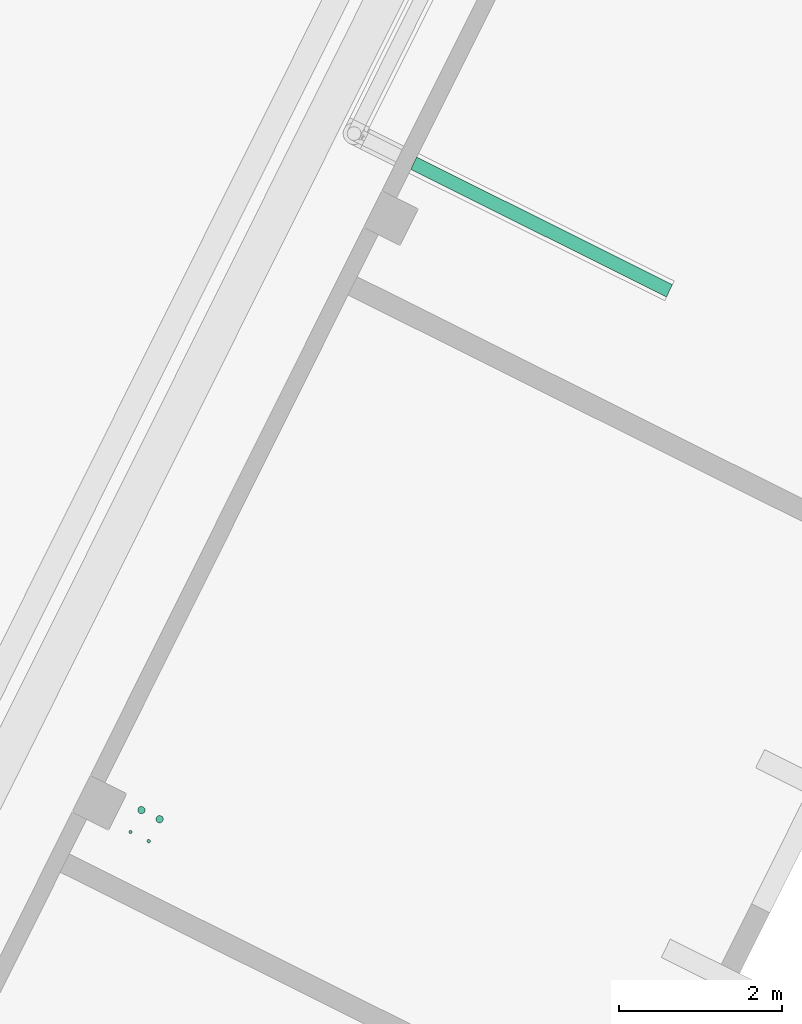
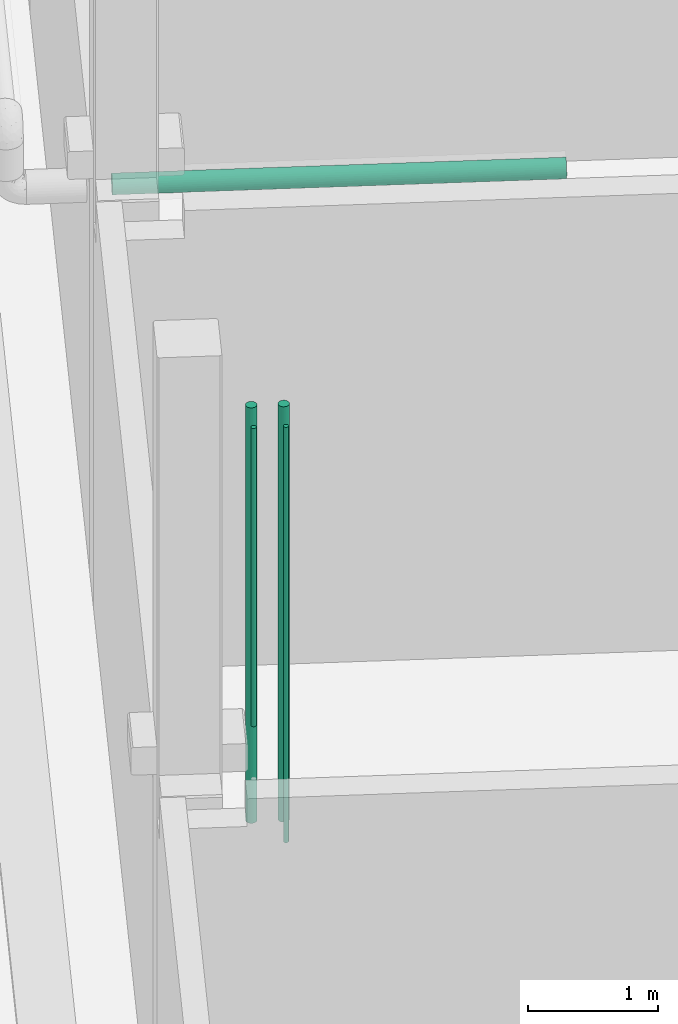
# One storey, part 60 of 91: 5 flow segments.
"""IFC2X3 building model written with IfcOpenShell, lengths in metres."""

import ifcopenshell
import ifcopenshell.guid

model = None  # the IFC model being written
_history = None  # IfcOwnerHistory: only IFC2X3 demands one
_inside = {}  # id of a spatial element -> (the spatial element, [elements in it])
_under = {}  # id of a project, library or spatial element -> (it, [spatial elements below it])
_declared = {}  # id of a project -> (the project, [libraries it declares])
_typed = {}  # id of a type object -> (the type object, [elements of that type])
_made_of = {}  # id of a material, layer set ... -> (it, [elements and type objects made of it])


def new_model(schema):
    """Start an empty IFC model of exactly this schema.

    Asked for "IFC4X3", IfcOpenShell would pick the latest addendum, in which some entities
    have other attributes; the version numbers below select the first issue.
    IFC2X3 requires an IfcOwnerHistory on every rooted entity: one is made here for all.
    """
    global model, _history
    if schema == "IFC4X3":
        model = ifcopenshell.file(schema_version=(4, 3, 0, 0))
    else:
        model = ifcopenshell.file(schema=schema)
    _inside.clear()
    _under.clear()
    _declared.clear()
    _typed.clear()
    _made_of.clear()
    _history = None
    if model.schema == "IFC2X3":
        org = make("IfcOrganization", Name="unknown")
        user = make(
            "IfcPersonAndOrganization",
            ThePerson=make("IfcPerson", FamilyName="unknown"),
            TheOrganization=org,
        )
        app = make(
            "IfcApplication",
            ApplicationDeveloper=org,
            Version="unknown",
            ApplicationFullName="unknown",
            ApplicationIdentifier="unknown",
        )
        _history = make(
            "IfcOwnerHistory",
            OwningUser=user,
            OwningApplication=app,
            ChangeAction="ADDED",
            CreationDate=0,
        )
    return model


def make(cls, **values):
    """One entity of the class cls with the attributes given. An attribute that is None is left unset."""
    return model.create_entity(
        cls, **{name: value for name, value in values.items() if value is not None}
    )


def entity(cls, *values):
    """Any entity or typed value of the class cls, its attributes in the order of the schema. None: left unset."""
    e = model.create_entity(cls)
    for i, value in enumerate(values):
        if value is not None:
            e[i] = value
    return e


def rooted(cls, **values):
    """An entity with a GlobalId (a new one), such as an element, a storey or a relation."""
    return make(cls, GlobalId=ifcopenshell.guid.new(), OwnerHistory=_history, **values)


def si_unit(unit_type, name, prefix=None):
    """IfcSIUnit, for example si_unit("LENGTHUNIT", "METRE", prefix="MILLI")."""
    return make("IfcSIUnit", UnitType=unit_type, Prefix=prefix, Name=name)


def converted_unit(unit_type, name, factor, base, dimensions=None, offset=None):
    """IfcConversionBasedUnit, such as the inch: factor (a typed value) times the base unit."""
    return make(
        "IfcConversionBasedUnit"
        if offset is None
        else "IfcConversionBasedUnitWithOffset",
        ConversionOffset=offset,
        Dimensions=None
        if dimensions is None
        else entity("IfcDimensionalExponents", *dimensions),
        UnitType=unit_type,
        Name=name,
        ConversionFactor=make(
            "IfcMeasureWithUnit", ValueComponent=factor, UnitComponent=base
        ),
    )


def derived_unit(unit_type, elements):
    """IfcDerivedUnit: a product of units, each with its exponent."""
    return make(
        "IfcDerivedUnit",
        Elements=[
            make("IfcDerivedUnitElement", Unit=unit, Exponent=power)
            for unit, power in elements
        ],
        UnitType=unit_type,
    )


def assignment(units):
    """IfcUnitAssignment: the units of a project."""
    return None if units is None else make("IfcUnitAssignment", Units=units)


def point(xyz):
    """IfcCartesianPoint."""
    return None if xyz is None else make("IfcCartesianPoint", Coordinates=xyz)


def direction(xyz):
    """IfcDirection."""
    return None if xyz is None else make("IfcDirection", DirectionRatios=xyz)


def frame(location, z_axis=None, x_axis=None):
    """IfcAxis2Placement3D, a coordinate frame: its origin and axes. An axis left out is left unset."""
    return make(
        "IfcAxis2Placement3D",
        Location=point(location),
        Axis=direction(z_axis),
        RefDirection=direction(x_axis),
    )


def frame_2d(location, x_axis=None):
    """IfcAxis2Placement2D, a coordinate frame in the plane: its origin and x axis."""
    return make(
        "IfcAxis2Placement2D", Location=point(location), RefDirection=direction(x_axis)
    )


def origin():
    """The frame at (0, 0, 0) with its axes left unset."""
    return frame((0.0, 0.0, 0.0))


def origin_2d_with_axis():
    """The frame at (0, 0) in the plane with the x axis (1, 0) written out."""
    return frame_2d((0.0, 0.0), x_axis=(1.0, 0.0))


def place(relative_to, where):
    """IfcLocalPlacement: puts the frame where relative to a parent placement (None: the world)."""
    return make(
        "IfcLocalPlacement", PlacementRelTo=relative_to, RelativePlacement=where
    )


def context(
    kind, dimensions, precision=None, world=None, true_north=None, identifier=None
):
    """IfcGeometricRepresentationContext, for example the 3D "Model" context."""
    return make(
        "IfcGeometricRepresentationContext",
        ContextIdentifier=identifier,
        ContextType=kind,
        CoordinateSpaceDimension=dimensions,
        Precision=precision,
        WorldCoordinateSystem=world,
        TrueNorth=true_north,
    )


def subcontext(parent, identifier, kind, view, scale=None):
    """IfcGeometricRepresentationSubContext, for example "Body" below "Model"."""
    return make(
        "IfcGeometricRepresentationSubContext",
        ContextIdentifier=identifier,
        ContextType=kind,
        ParentContext=parent,
        TargetScale=scale,
        TargetView=view,
    )


def project(units=None, contexts=None):
    """IfcProject with its units and contexts."""
    return rooted(
        "IfcProject",
        Name="project",
        RepresentationContexts=contexts,
        UnitsInContext=assignment(units),
    )


def spatial(cls, under=None, at=None, **own):
    """A site, building, storey or space (cls), placed at a placement, below another one or the project."""
    s = rooted(cls, ObjectPlacement=at, **own)
    if under is not None:
        _under.setdefault(under.id(), (under, []))[1].append(s)
    return s


def profile(cls, at=None, kind="AREA", **sizes):
    """A parametric profile (cls). Its sizes go by their IFC names, for example OverallWidth=200.0."""
    return make(cls, ProfileType=kind, Position=at, **sizes)


def circle(**sizes):
    """IfcCircleProfileDef."""
    return profile("IfcCircleProfileDef", **sizes)


def extrude(swept, where, along, depth):
    """IfcExtrudedAreaSolid: the profile swept, set in the frame where, extruded along a direction by depth."""
    return make(
        "IfcExtrudedAreaSolid",
        SweptArea=swept,
        Position=where,
        ExtrudedDirection=direction(along),
        Depth=depth,
    )


def shape(context_of_items, identifier, shape_type, items):
    """IfcShapeRepresentation: the items that make up one representation, for example the "Body"."""
    return make(
        "IfcShapeRepresentation",
        ContextOfItems=context_of_items,
        RepresentationIdentifier=identifier,
        RepresentationType=shape_type,
        Items=items,
    )


def made_of(thing, what):
    """Note that an element or type object is made of a material, layer set ...; save() writes the relation."""
    if what is not None:
        _made_of.setdefault(what.id(), (what, []))[1].append(thing)
    return thing


def type_object(cls, material=None, **own):
    """A type object (cls), such as IfcWallType, which elements share."""
    return made_of(rooted(cls, **own), material)


def element(
    cls,
    number,
    at=None,
    inside=None,
    cuts=None,
    type_object=None,
    material=None,
    context=None,
    identifier="Body",
    shape_type=None,
    held_by="IfcProductDefinitionShape",
    body=None,
    shapes=None,
    **own,
):
    """One element of the class cls, such as IfcWall. Its Tag is "e" and its number.

    at: its placement. inside: the storey or other place that contains it. cuts: it is an
    opening in that element (IfcRelVoidsElement). A single representation is given by context,
    identifier, shape_type and body (its items); several are given by shapes. held_by: the class
    of the entity that holds the representations. save() writes the other relations.
    """
    e = rooted(cls, Tag="e%d" % number, ObjectPlacement=at, **own)
    if body is not None:
        shapes = [shape(context, identifier, shape_type, body)]
    if shapes is not None:
        e.Representation = make(held_by, Representations=shapes)
    if inside is not None:
        _inside.setdefault(inside.id(), (inside, []))[1].append(e)
    if cuts is not None:
        rooted(
            "IfcRelVoidsElement", RelatingBuildingElement=cuts, RelatedOpeningElement=e
        )
    if type_object is not None:
        _typed.setdefault(type_object.id(), (type_object, []))[1].append(e)
    return made_of(e, material)


def aggregate(whole, parts):
    """IfcRelAggregates: a whole, such as a stair, and the parts it consists of."""
    return rooted("IfcRelAggregates", RelatingObject=whole, RelatedObjects=parts)


def save(model, path):
    """Write the relations noted so far, then the file.

    IfcRelAggregates (storeys below a building ...), IfcRelContainedInSpatialStructure (elements
    in a storey), IfcRelDefinesByType, IfcRelAssociatesMaterial and IfcRelDeclares: one each for
    every whole, place, type object, material and project.
    """
    for whole, parts in _under.values():
        aggregate(whole, parts)
    for where, things in _inside.values():
        rooted(
            "IfcRelContainedInSpatialStructure",
            RelatedElements=things,
            RelatingStructure=where,
        )
    for kind, things in _typed.values():
        rooted("IfcRelDefinesByType", RelatedObjects=things, RelatingType=kind)
    for what, things in _made_of.values():
        rooted("IfcRelAssociatesMaterial", RelatedObjects=things, RelatingMaterial=what)
    for by, libraries in _declared.values():
        rooted("IfcRelDeclares", RelatingContext=by, RelatedDefinitions=libraries)
    model.write(path)


model = new_model("IFC2X3")

# Units and contexts
model_context = context("Model", 3, precision=1e-05, world=origin(), true_north=direction((0.894925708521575, 0.446215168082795)))
context_of_model = context(None, 3, precision=1e-05, world=origin(), true_north=direction((0.894925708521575, 0.446215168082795)))
body_context = subcontext(model_context, "Body", "Model", "MODEL_VIEW")
ifc_project = project(units=[si_unit("LENGTHUNIT", "METRE"), si_unit("AREAUNIT", "SQUARE_METRE"), si_unit("VOLUMEUNIT", "CUBIC_METRE"), converted_unit("PLANEANGLEUNIT", "DEGREE", entity("IfcRatioMeasure", 0.0174532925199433), si_unit("PLANEANGLEUNIT", "RADIAN"), dimensions=[0, 0, 0, 0, 0, 0, 0]), si_unit("MASSUNIT", "GRAM", prefix="KILO"), si_unit("TIMEUNIT", "SECOND"), si_unit("FREQUENCYUNIT", "HERTZ"), si_unit("THERMODYNAMICTEMPERATUREUNIT", "DEGREE_CELSIUS"), derived_unit("THERMALTRANSMITTANCEUNIT", [(si_unit("MASSUNIT", "GRAM", prefix="KILO"), 1), (si_unit("THERMODYNAMICTEMPERATUREUNIT", "KELVIN"), -1), (si_unit("TIMEUNIT", "SECOND"), -3)]), derived_unit("VOLUMETRICFLOWRATEUNIT", [(si_unit("LENGTHUNIT", "METRE"), 3), (si_unit("TIMEUNIT", "SECOND"), -1)]), si_unit("ELECTRICCURRENTUNIT", "AMPERE"), si_unit("ELECTRICVOLTAGEUNIT", "VOLT"), si_unit("POWERUNIT", "WATT"), si_unit("FORCEUNIT", "NEWTON", prefix="KILO"), si_unit("ILLUMINANCEUNIT", "LUX"), si_unit("LUMINOUSFLUXUNIT", "LUMEN"), si_unit("LUMINOUSINTENSITYUNIT", "CANDELA"), si_unit("PRESSUREUNIT", "PASCAL")], contexts=[model_context, context_of_model])

# Site, building, storey
site_placement = place(None, frame((218.228324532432, 584.720189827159, 0.0), z_axis=(0.0, 0.0, 1.0), x_axis=(0.446215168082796, 0.894925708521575, 0.0)))
site = spatial("IfcSite", under=ifc_project, at=site_placement, Name="Default", CompositionType="ELEMENT")
building_placement = place(site_placement, origin())
building = spatial("IfcBuilding", under=site, at=building_placement, CompositionType="ELEMENT")
storey_placement = place(building_placement, origin())
storey = spatial("IfcBuildingStorey", under=building, at=storey_placement, Name="0 - Piano Terra", CompositionType="ELEMENT", Elevation=0.0)

# Flow segments
pipe_segment_type_1 = type_object("IfcPipeSegmentType", Name="Tubazione:Riscaldamento-Tubazione", PredefinedType="NOTDEFINED")
flow_segment_1_placement = place(storey_placement, frame((-36.208585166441, -8.7010789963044, 3.21426722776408)))
element("IfcFlowSegment", 1, at=flow_segment_1_placement, inside=storey, type_object=pipe_segment_type_1, Name="Tubazione:Riscaldamento-Tubazione", ObjectType="Tubazione:Riscaldamento-Tubazione", context=body_context, shape_type="SweptSolid", body=[
    extrude(circle(Radius=0.0841375, at=origin_2d_with_axis()), frame((0.0857327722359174, 0.0, 0.0857327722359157), z_axis=(0.0, 1.0, 0.0), x_axis=(1.0, 0.0, 0.0)), (0.0, 0.0, 1.0), 3.5),
])
flow_segment_2_placement = place(storey_placement, frame((-45.0233431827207, -6.02375626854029, 3.30000000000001)))
element("IfcFlowSegment", 2, at=flow_segment_2_placement, inside=storey, type_object=pipe_segment_type_1, Name="Tubazione:Riscaldamento-Tubazione", ObjectType="Tubazione:Riscaldamento-Tubazione", context=body_context, shape_type="SweptSolid", body=[
    extrude(circle(Radius=0.021082, at=origin_2d_with_axis()), frame((0.0226772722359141, 0.0226772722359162, 0.0)), (0.0, 0.0, 1.0), 3.9),
])
pipe_segment_type_2 = type_object("IfcPipeSegmentType", Name="Tubazione:Antincendio-Tubazione", PredefinedType="NOTDEFINED")
for number, where, name in (
    (3, (-44.7467111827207, -5.79712426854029, 3.30000000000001), "Tubazione:Antincendio-Tubazione"),
    (4, (-44.7467111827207, -6.04712426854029, 3.30000000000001), "Tubazione:Antincendio-Tubazione"),
):
    element("IfcFlowSegment", number, at=place(storey_placement, frame(where)), inside=storey, type_object=pipe_segment_type_2, Name=name, ObjectType="Tubazione:Antincendio-Tubazione", context=body_context, shape_type="SweptSolid", body=[
        extrude(circle(Radius=0.04445, at=origin_2d_with_axis()), frame((0.0460452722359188, 0.0460452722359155, 0.0)), (0.0, 0.0, 1.0), 3.9),
    ])
flow_segment_3_placement = place(storey_placement, frame((-45.0233431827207, -5.77375626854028, 4.40000000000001)))
element("IfcFlowSegment", 5, at=flow_segment_3_placement, inside=storey, type_object=pipe_segment_type_2, Name="Tubazione:Antincendio-Tubazione", ObjectType="Tubazione:Antincendio-Tubazione", context=body_context, shape_type="SweptSolid", body=[
    extrude(circle(Radius=0.021082, at=origin_2d_with_axis()), frame((0.0226772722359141, 0.0226772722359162, 0.0)), (0.0, 0.0, 1.0), 2.8),
])

save(model, "model.ifc")
